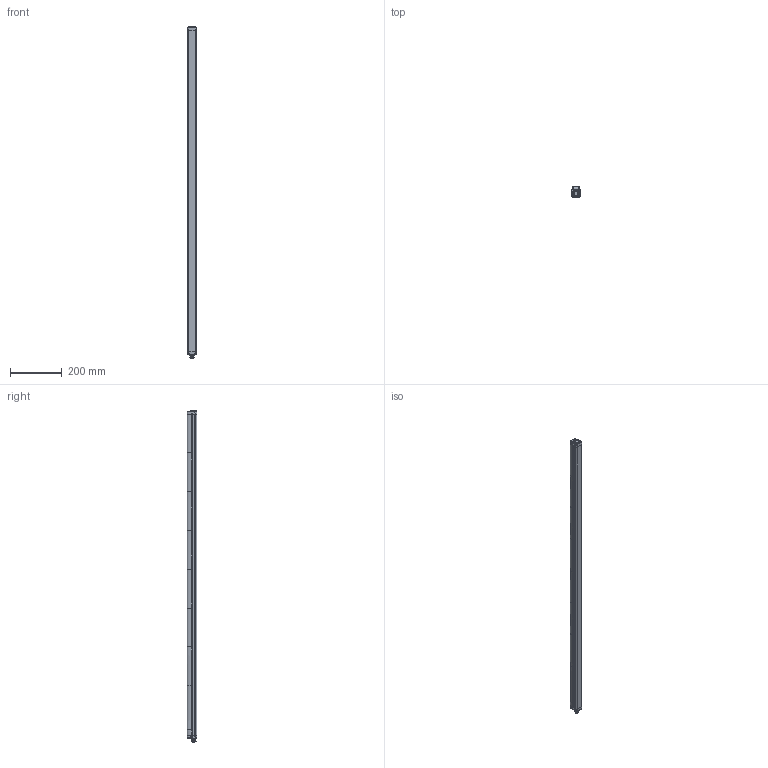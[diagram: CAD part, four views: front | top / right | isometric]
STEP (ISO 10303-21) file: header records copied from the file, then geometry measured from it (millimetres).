
FILE_DESCRIPTION(/* description */ (''),/* implementation_level */ '2;1');
FILE_NAME(/* name */ 'DSD-0176.stp',/* time_stamp */ '2020-07-16T15:12:11+02:00',/* author */ (''),/* organization */ (''),/* preprocessor_version */ 'ST-DEVELOPER v16.7',/* originating_system */ 'SIEMENS PLM Software NX 12.0',/* authorisation */ '');
FILE_SCHEMA (('AUTOMOTIVE_DESIGN { 1 0 10303 214 3 1 1 1 }'));
Products named in the file (1): AP025830_00_1-DSD-0176
Bounding box: 32.3 x 36.9 x 1282.94 mm (x, y, z)
Volume: 1281045.4 mm3; surface area: 299417.6 mm2
Topology: 11 solids, 813 shells, 1666 faces, 5286 edges, 4169 vertices
Faces by surface type: cylinder 614, bspline 571, plane 384, sphere 54, cone 35, torus 8
Full cylindrical faces by diameter (mm): 0.8 x16, 1.5 x6, 2 x6, 2.05 x4, 2.5 x12, 2.7 x10, 2.9 x6, 3 x12, 3.4 x6, 3.6 x12, 4.7 x2, 5 x10, 5.3 x2, 7.5 x1, 8 x1, 8.3 x1, 9.3 x1, 9.5 x1, 9.55 x1, 10.5 x1, 11 x2, 12 x12, 13.97 x1, 14.3 x1, 16 x2
Entity records: 87258 total; most frequent: CARTESIAN_POINT 37325, ORIENTED_EDGE 6947, DIRECTION 6148, EDGE_CURVE 5007, VERTEX_POINT 4167, AXIS2_PLACEMENT_3D 2412, EDGE_LOOP 1980, PRESENTATION_STYLE_ASSIGNMENT 1675
